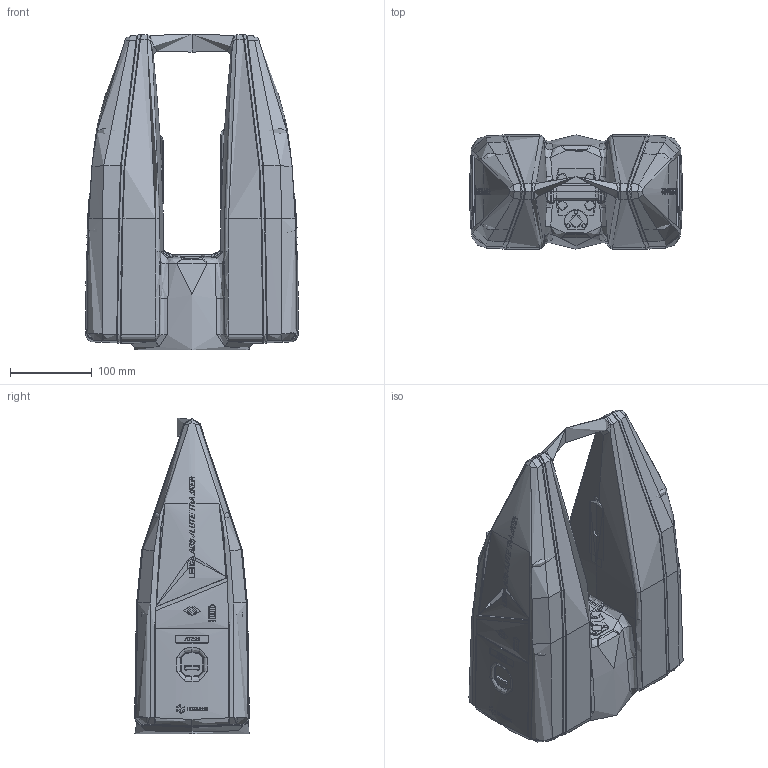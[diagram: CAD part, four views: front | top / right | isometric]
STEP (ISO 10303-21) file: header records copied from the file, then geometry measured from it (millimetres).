
FILE_DESCRIPTION(/* description */ (''),/* implementation_level */ '2;1');
FILE_NAME(/* name */ '577440-010_A-AT500 Absolute Tracker Mockup external.stp',/* time_stamp */ '2021-12-13T13:52:33+01:00',/* author */ (''),/* organization */ (''),/* preprocessor_version */ 'ST-DEVELOPER v18.1',/* originating_system */ 'SIEMENS PLM Software NX 1969',/* authorisation */ '');
FILE_SCHEMA (('AUTOMOTIVE_DESIGN { 1 0 10303 214 3 1 1 1 }'));
Length unit declared in the file: millimetre
Products named in the file (1): FUSI406810BD1p14
Bounding box: 261.01 x 140 x 387 mm (x, y, z)
Volume: 7978993.6 mm3; surface area: 336730.5 mm2
Topology: 1 solids, 1 shells, 1707 faces, 4764 edges, 3246 vertices
Faces by surface type: plane 697, bspline 585, extrusion 255, cylinder 130, cone 32, torus 8
Full cylindrical faces by diameter (mm): 0.8 x37, 4.5 x3, 10 x3, 12.2 x4, 15.2 x1
Entity records: 109499 total; most frequent: CARTESIAN_POINT 63005, ORIENTED_EDGE 9262, EDGE_CURVE 4631, DIRECTION 3698, B_SPLINE_CURVE_WITH_KNOTS 3224, VERTEX_POINT 3205, EDGE_LOOP 1988, ADVANCED_FACE 1707
